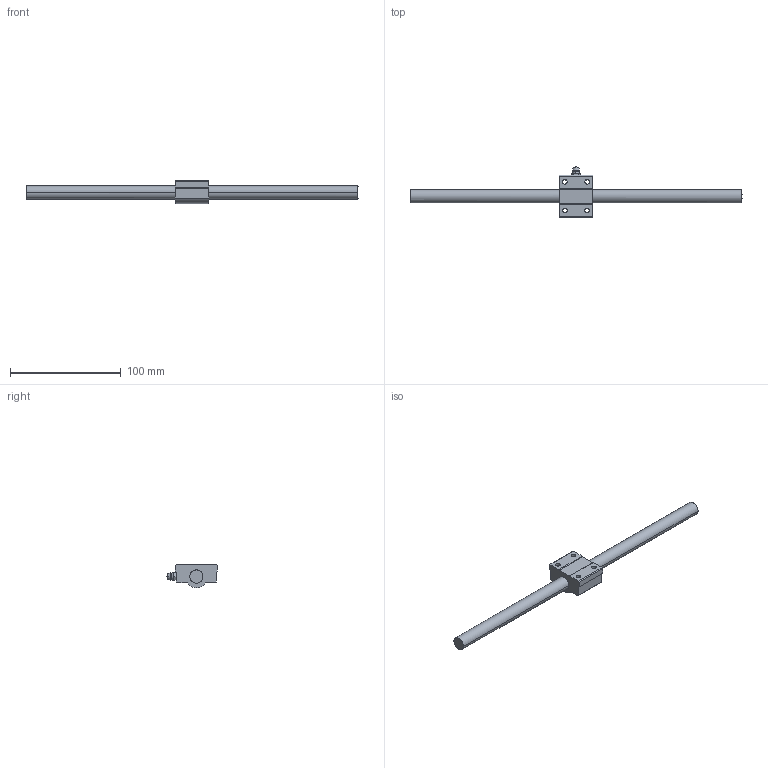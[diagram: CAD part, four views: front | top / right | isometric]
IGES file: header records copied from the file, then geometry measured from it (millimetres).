
Global section: file name: No Iges File Name specified; native system: AutoDesk Inventor R10; preprocessor: AutoDesk Inventor Iges Exporter R10; author: No Author specified; organization: No Organization specified; date: 20101224.145552; units: millimetre
Bounding box: 300 x 45.8 x 21 mm (x, y, z)
Surface area: 17952.6 mm2 (no closed solid volume)
Topology: 0 solids, 0 shells, 79 faces, 480 edges, 476 vertices
Faces by surface type: bspline 79
